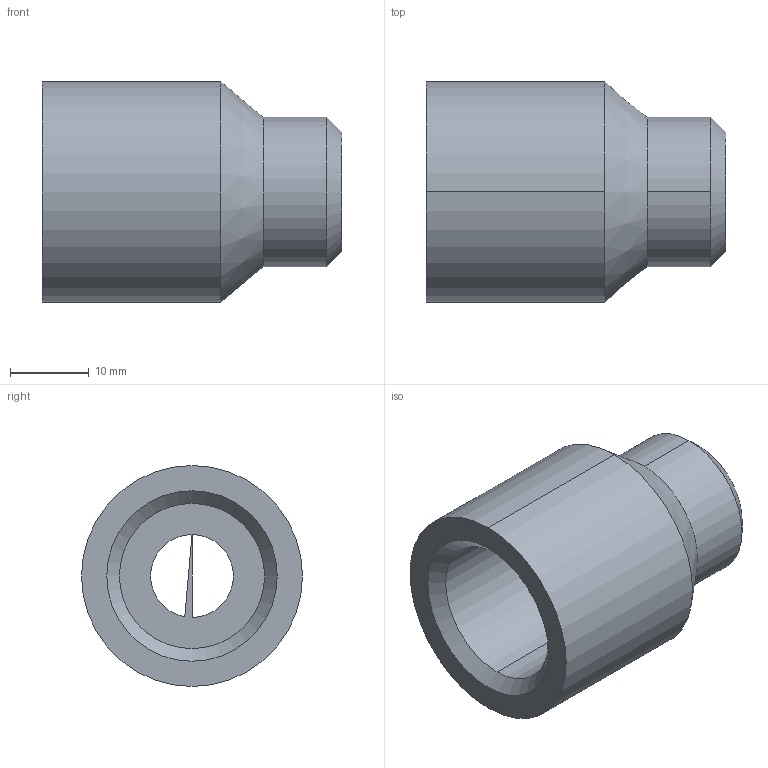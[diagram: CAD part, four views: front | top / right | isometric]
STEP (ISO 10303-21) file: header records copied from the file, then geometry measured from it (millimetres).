
FILE_DESCRIPTION(('TFLEX Exchange Step'),'2;1');
FILE_NAME('X2\0411043E0431044B0448043A0430\X0\ БПУ-М20-d10-М01.stp', '2020-10-14T17:00:20+05:00',('Пользователь'),('Unknown organisation'),'TFLEX Exchange 2019.1','T-FLEX CAD','Unknown authorisation');
FILE_SCHEMA( ('AUTOMOTIVE_DESIGN { 1 0 10303 214 1 1 1 1 }') );
Length unit declared in the file: millimetre
Products named in the file (1): Бобышка БПУ-М20-d10-М01
Bounding box: 38 x 28 x 28 mm (x, y, z)
Volume: 12004.3 mm3; surface area: 5526.1 mm2
Topology: 1 solids, 1 shells, 22 faces, 48 edges, 26 vertices
Faces by surface type: cylinder 10, cone 5, torus 4, plane 3
Entity records: 626 total; most frequent: DIRECTION 124, CARTESIAN_POINT 97, ORIENTED_EDGE 96, AXIS2_PLACEMENT_3D 53, EDGE_CURVE 48, CIRCLE 30, VERTEX_POINT 26, EDGE_LOOP 22
